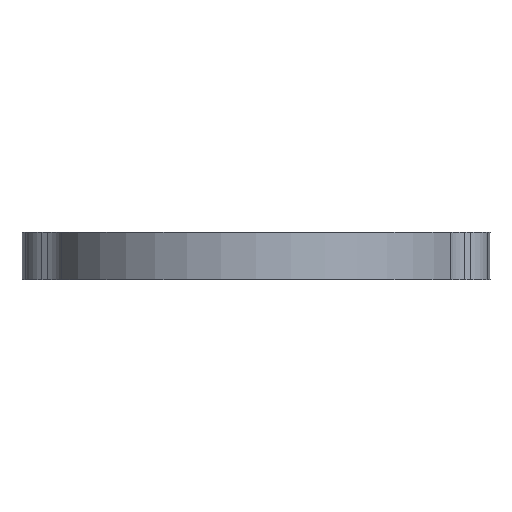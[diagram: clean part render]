
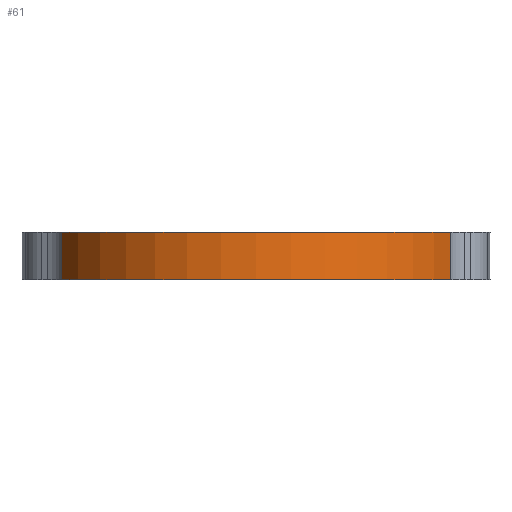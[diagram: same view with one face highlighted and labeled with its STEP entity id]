
A CAD part, front view. The second image highlights one B-rep face of the part: STEP entity #61.
In plain terms, the highlighted cylindrical face has radius 28.575 mm (diameter 57.15 mm), a partial arc.
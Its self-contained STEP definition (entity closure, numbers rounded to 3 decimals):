
#9 = AXIS2_PLACEMENT_3D ( 'NONE', #625, #626, #627 ) ;
#61 = ADVANCED_FACE ( 'NONE', ( #497 ), #501, .T. ) ;
#156 = CIRCLE ( 'NONE', #9, 28.575 ) ;
#168 = LINE ( 'NONE', #656, #173 ) ;
#171 = LINE ( 'NONE', #655, #175 ) ;
#173 = VECTOR ( 'NONE', #653, 1000. ) ;
#175 = VECTOR ( 'NONE', #661, 1000. ) ;
#222 = CIRCLE ( 'NONE', #802, 28.575 ) ;
#301 = CARTESIAN_POINT ( 'NONE',  ( -26.219, -11.363, 6.35 ) ) ;
#302 = CARTESIAN_POINT ( 'NONE',  ( -26.219, -11.363, 0. ) ) ;
#309 = CARTESIAN_POINT ( 'NONE',  ( 26.219, -11.363, 0. ) ) ;
#312 = CARTESIAN_POINT ( 'NONE',  ( 26.219, -11.363, 6.35 ) ) ;
#443 = DIRECTION ( 'NONE',  ( -1., 0., 0. ) ) ;
#448 = DIRECTION ( 'NONE',  ( 0., 0., -1. ) ) ;
#450 = CARTESIAN_POINT ( 'NONE',  ( 0., 0., 6.35 ) ) ;
#497 = FACE_OUTER_BOUND ( 'NONE', #964, .T. ) ;
#501 = CYLINDRICAL_SURFACE ( 'NONE', #1032, 28.575 ) ;
#625 = CARTESIAN_POINT ( 'NONE',  ( 0., 0., 6.35 ) ) ;
#626 = DIRECTION ( 'NONE',  ( 0., 0., 1. ) ) ;
#627 = DIRECTION ( 'NONE',  ( 1., 0., 0. ) ) ;
#653 = DIRECTION ( 'NONE',  ( 0., 0., 1. ) ) ;
#655 = CARTESIAN_POINT ( 'NONE',  ( -26.219, -11.363, 6.35 ) ) ;
#656 = CARTESIAN_POINT ( 'NONE',  ( 26.219, -11.363, 6.35 ) ) ;
#661 = DIRECTION ( 'NONE',  ( 0., 0., -1. ) ) ;
#750 = CARTESIAN_POINT ( 'NONE',  ( 0., 0., 0. ) ) ;
#751 = DIRECTION ( 'NONE',  ( 0., 0., 1. ) ) ;
#752 = DIRECTION ( 'NONE',  ( 1., 0., 0. ) ) ;
#802 = AXIS2_PLACEMENT_3D ( 'NONE', #750, #751, #752 ) ;
#908 = EDGE_CURVE ( 'NONE', #1045, #1062, #156, .T. ) ;
#921 = EDGE_CURVE ( 'NONE', #1054, #1062, #168, .T. ) ;
#922 = EDGE_CURVE ( 'NONE', #1045, #1046, #171, .T. ) ;
#964 = EDGE_LOOP ( 'NONE', ( #979, #972, #970, #977 ) ) ;
#970 = ORIENTED_EDGE ( 'NONE', *, *, #908, .F. ) ;
#972 = ORIENTED_EDGE ( 'NONE', *, *, #921, .T. ) ;
#977 = ORIENTED_EDGE ( 'NONE', *, *, #922, .T. ) ;
#979 = ORIENTED_EDGE ( 'NONE', *, *, #1004, .T. ) ;
#1004 = EDGE_CURVE ( 'NONE', #1046, #1054, #222, .T. ) ;
#1032 = AXIS2_PLACEMENT_3D ( 'NONE', #450, #448, #443 ) ;
#1045 = VERTEX_POINT ( 'NONE', #301 ) ;
#1046 = VERTEX_POINT ( 'NONE', #302 ) ;
#1054 = VERTEX_POINT ( 'NONE', #309 ) ;
#1062 = VERTEX_POINT ( 'NONE', #312 ) ;
